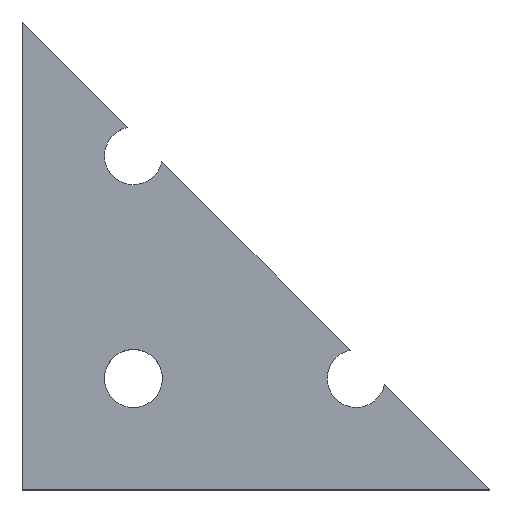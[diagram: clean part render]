
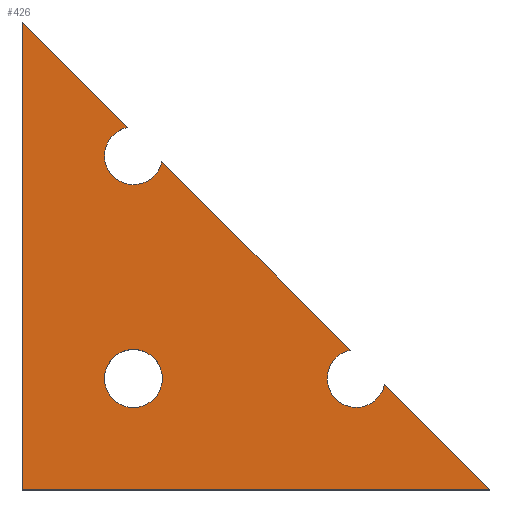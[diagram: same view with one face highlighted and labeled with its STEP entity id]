
A CAD part, top view. The second image highlights one B-rep face of the part: STEP entity #426.
In plain terms, the highlighted planar face has unit normal (0, 0, 1).
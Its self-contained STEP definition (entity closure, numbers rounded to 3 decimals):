
#24 = VERTEX_POINT('',#25);
#25 = CARTESIAN_POINT('',(0.,0.,5.));
#32 = PLANE('',#33);
#33 = AXIS2_PLACEMENT_3D('',#34,#35,#36);
#34 = CARTESIAN_POINT('',(0.,0.,0.));
#35 = DIRECTION('',(0.,1.,0.));
#36 = DIRECTION('',(1.,0.,0.));
#44 = PLANE('',#45);
#45 = AXIS2_PLACEMENT_3D('',#46,#47,#48);
#46 = CARTESIAN_POINT('',(0.,42.,0.));
#47 = DIRECTION('',(1.,0.,-0.));
#48 = DIRECTION('',(0.,-1.,0.));
#56 = EDGE_CURVE('',#24,#57,#59,.T.);
#57 = VERTEX_POINT('',#58);
#58 = CARTESIAN_POINT('',(42.,0.,5.));
#59 = SURFACE_CURVE('',#60,(#64,#71),.PCURVE_S1.);
#60 = LINE('',#61,#62);
#61 = CARTESIAN_POINT('',(0.,0.,5.));
#62 = VECTOR('',#63,1.);
#63 = DIRECTION('',(1.,0.,0.));
#64 = PCURVE('',#32,#65);
#65 = DEFINITIONAL_REPRESENTATION('',(#66),#70);
#66 = LINE('',#67,#68);
#67 = CARTESIAN_POINT('',(0.,-5.));
#68 = VECTOR('',#69,1.);
#69 = DIRECTION('',(1.,0.));
#70 = ( GEOMETRIC_REPRESENTATION_CONTEXT(2) 
PARAMETRIC_REPRESENTATION_CONTEXT() REPRESENTATION_CONTEXT('2D SPACE',''
  ) );
#71 = PCURVE('',#72,#77);
#72 = PLANE('',#73);
#73 = AXIS2_PLACEMENT_3D('',#74,#75,#76);
#74 = CARTESIAN_POINT('',(14.849,14.849,5.));
#75 = DIRECTION('',(0.,0.,1.));
#76 = DIRECTION('',(1.,0.,0.));
#77 = DEFINITIONAL_REPRESENTATION('',(#78),#82);
#78 = LINE('',#79,#80);
#79 = CARTESIAN_POINT('',(-14.849,-14.849));
#80 = VECTOR('',#81,1.);
#81 = DIRECTION('',(1.,0.));
#82 = ( GEOMETRIC_REPRESENTATION_CONTEXT(2) 
PARAMETRIC_REPRESENTATION_CONTEXT() REPRESENTATION_CONTEXT('2D SPACE',''
  ) );
#100 = PLANE('',#101);
#101 = AXIS2_PLACEMENT_3D('',#102,#103,#104);
#102 = CARTESIAN_POINT('',(42.,0.,0.));
#103 = DIRECTION('',(-0.707,-0.707,0.));
#104 = DIRECTION('',(-0.707,0.707,0.));
#144 = VERTEX_POINT('',#145);
#145 = CARTESIAN_POINT('',(0.,42.,5.));
#159 = PLANE('',#160);
#160 = AXIS2_PLACEMENT_3D('',#161,#162,#163);
#161 = CARTESIAN_POINT('',(42.,0.,0.));
#162 = DIRECTION('',(-0.707,-0.707,0.));
#163 = DIRECTION('',(-0.707,0.707,0.));
#171 = EDGE_CURVE('',#144,#24,#172,.T.);
#172 = SURFACE_CURVE('',#173,(#177,#184),.PCURVE_S1.);
#173 = LINE('',#174,#175);
#174 = CARTESIAN_POINT('',(0.,42.,5.));
#175 = VECTOR('',#176,1.);
#176 = DIRECTION('',(0.,-1.,0.));
#177 = PCURVE('',#44,#178);
#178 = DEFINITIONAL_REPRESENTATION('',(#179),#183);
#179 = LINE('',#180,#181);
#180 = CARTESIAN_POINT('',(0.,-5.));
#181 = VECTOR('',#182,1.);
#182 = DIRECTION('',(1.,0.));
#183 = ( GEOMETRIC_REPRESENTATION_CONTEXT(2) 
PARAMETRIC_REPRESENTATION_CONTEXT() REPRESENTATION_CONTEXT('2D SPACE',''
  ) );
#184 = PCURVE('',#72,#185);
#185 = DEFINITIONAL_REPRESENTATION('',(#186),#190);
#186 = LINE('',#187,#188);
#187 = CARTESIAN_POINT('',(-14.849,27.151));
#188 = VECTOR('',#189,1.);
#189 = DIRECTION('',(0.,-1.));
#190 = ( GEOMETRIC_REPRESENTATION_CONTEXT(2) 
PARAMETRIC_REPRESENTATION_CONTEXT() REPRESENTATION_CONTEXT('2D SPACE',''
  ) );
#241 = EDGE_CURVE('',#57,#242,#244,.T.);
#242 = VERTEX_POINT('',#243);
#243 = CARTESIAN_POINT('',(32.543,9.457,5.));
#244 = SURFACE_CURVE('',#245,(#249,#256),.PCURVE_S1.);
#245 = LINE('',#246,#247);
#246 = CARTESIAN_POINT('',(42.,0.,5.));
#247 = VECTOR('',#248,1.);
#248 = DIRECTION('',(-0.707,0.707,0.));
#249 = PCURVE('',#100,#250);
#250 = DEFINITIONAL_REPRESENTATION('',(#251),#255);
#251 = LINE('',#252,#253);
#252 = CARTESIAN_POINT('',(0.,-5.));
#253 = VECTOR('',#254,1.);
#254 = DIRECTION('',(1.,0.));
#255 = ( GEOMETRIC_REPRESENTATION_CONTEXT(2) 
PARAMETRIC_REPRESENTATION_CONTEXT() REPRESENTATION_CONTEXT('2D SPACE',''
  ) );
#256 = PCURVE('',#72,#257);
#257 = DEFINITIONAL_REPRESENTATION('',(#258),#262);
#258 = LINE('',#259,#260);
#259 = CARTESIAN_POINT('',(27.151,-14.849));
#260 = VECTOR('',#261,1.);
#261 = DIRECTION('',(-0.707,0.707));
#262 = ( GEOMETRIC_REPRESENTATION_CONTEXT(2) 
PARAMETRIC_REPRESENTATION_CONTEXT() REPRESENTATION_CONTEXT('2D SPACE',''
  ) );
#277 = CYLINDRICAL_SURFACE('',#278,2.6);
#278 = AXIS2_PLACEMENT_3D('',#279,#280,#281);
#279 = CARTESIAN_POINT('',(30.,10.,-2.));
#280 = DIRECTION('',(0.,0.,1.));
#281 = DIRECTION('',(1.,0.,0.));
#357 = PLANE('',#358);
#358 = AXIS2_PLACEMENT_3D('',#359,#360,#361);
#359 = CARTESIAN_POINT('',(42.,0.,0.));
#360 = DIRECTION('',(-0.707,-0.707,0.));
#361 = DIRECTION('',(-0.707,0.707,0.));
#384 = CYLINDRICAL_SURFACE('',#385,2.6);
#385 = AXIS2_PLACEMENT_3D('',#386,#387,#388);
#386 = CARTESIAN_POINT('',(10.,30.,-2.));
#387 = DIRECTION('',(0.,0.,1.));
#388 = DIRECTION('',(1.,0.,0.));
#415 = CYLINDRICAL_SURFACE('',#416,2.6);
#416 = AXIS2_PLACEMENT_3D('',#417,#418,#419);
#417 = CARTESIAN_POINT('',(10.,10.,-2.));
#418 = DIRECTION('',(0.,0.,1.));
#419 = DIRECTION('',(1.,0.,0.));
#426 = ADVANCED_FACE('',(#427,#524),#72,.T.);
#427 = FACE_BOUND('',#428,.T.);
#428 = EDGE_LOOP('',(#429,#452,#453,#454,#455,#479,#502));
#429 = ORIENTED_EDGE('',*,*,#430,.T.);
#430 = EDGE_CURVE('',#431,#144,#433,.T.);
#431 = VERTEX_POINT('',#432);
#432 = CARTESIAN_POINT('',(9.457,32.543,5.));
#433 = SURFACE_CURVE('',#434,(#438,#445),.PCURVE_S1.);
#434 = LINE('',#435,#436);
#435 = CARTESIAN_POINT('',(42.,0.,5.));
#436 = VECTOR('',#437,1.);
#437 = DIRECTION('',(-0.707,0.707,0.));
#438 = PCURVE('',#72,#439);
#439 = DEFINITIONAL_REPRESENTATION('',(#440),#444);
#440 = LINE('',#441,#442);
#441 = CARTESIAN_POINT('',(27.151,-14.849));
#442 = VECTOR('',#443,1.);
#443 = DIRECTION('',(-0.707,0.707));
#444 = ( GEOMETRIC_REPRESENTATION_CONTEXT(2) 
PARAMETRIC_REPRESENTATION_CONTEXT() REPRESENTATION_CONTEXT('2D SPACE',''
  ) );
#445 = PCURVE('',#159,#446);
#446 = DEFINITIONAL_REPRESENTATION('',(#447),#451);
#447 = LINE('',#448,#449);
#448 = CARTESIAN_POINT('',(0.,-5.));
#449 = VECTOR('',#450,1.);
#450 = DIRECTION('',(1.,0.));
#451 = ( GEOMETRIC_REPRESENTATION_CONTEXT(2) 
PARAMETRIC_REPRESENTATION_CONTEXT() REPRESENTATION_CONTEXT('2D SPACE',''
  ) );
#452 = ORIENTED_EDGE('',*,*,#171,.T.);
#453 = ORIENTED_EDGE('',*,*,#56,.T.);
#454 = ORIENTED_EDGE('',*,*,#241,.T.);
#455 = ORIENTED_EDGE('',*,*,#456,.F.);
#456 = EDGE_CURVE('',#457,#242,#459,.T.);
#457 = VERTEX_POINT('',#458);
#458 = CARTESIAN_POINT('',(29.457,12.543,5.));
#459 = SURFACE_CURVE('',#460,(#465,#472),.PCURVE_S1.);
#460 = CIRCLE('',#461,2.6);
#461 = AXIS2_PLACEMENT_3D('',#462,#463,#464);
#462 = CARTESIAN_POINT('',(30.,10.,5.));
#463 = DIRECTION('',(0.,0.,1.));
#464 = DIRECTION('',(1.,0.,-0.));
#465 = PCURVE('',#72,#466);
#466 = DEFINITIONAL_REPRESENTATION('',(#467),#471);
#467 = CIRCLE('',#468,2.6);
#468 = AXIS2_PLACEMENT_2D('',#469,#470);
#469 = CARTESIAN_POINT('',(15.151,-4.849));
#470 = DIRECTION('',(1.,0.));
#471 = ( GEOMETRIC_REPRESENTATION_CONTEXT(2) 
PARAMETRIC_REPRESENTATION_CONTEXT() REPRESENTATION_CONTEXT('2D SPACE',''
  ) );
#472 = PCURVE('',#277,#473);
#473 = DEFINITIONAL_REPRESENTATION('',(#474),#478);
#474 = LINE('',#475,#476);
#475 = CARTESIAN_POINT('',(0.,7.));
#476 = VECTOR('',#477,1.);
#477 = DIRECTION('',(1.,0.));
#478 = ( GEOMETRIC_REPRESENTATION_CONTEXT(2) 
PARAMETRIC_REPRESENTATION_CONTEXT() REPRESENTATION_CONTEXT('2D SPACE',''
  ) );
#479 = ORIENTED_EDGE('',*,*,#480,.T.);
#480 = EDGE_CURVE('',#457,#481,#483,.T.);
#481 = VERTEX_POINT('',#482);
#482 = CARTESIAN_POINT('',(12.543,29.457,5.));
#483 = SURFACE_CURVE('',#484,(#488,#495),.PCURVE_S1.);
#484 = LINE('',#485,#486);
#485 = CARTESIAN_POINT('',(42.,0.,5.));
#486 = VECTOR('',#487,1.);
#487 = DIRECTION('',(-0.707,0.707,0.));
#488 = PCURVE('',#72,#489);
#489 = DEFINITIONAL_REPRESENTATION('',(#490),#494);
#490 = LINE('',#491,#492);
#491 = CARTESIAN_POINT('',(27.151,-14.849));
#492 = VECTOR('',#493,1.);
#493 = DIRECTION('',(-0.707,0.707));
#494 = ( GEOMETRIC_REPRESENTATION_CONTEXT(2) 
PARAMETRIC_REPRESENTATION_CONTEXT() REPRESENTATION_CONTEXT('2D SPACE',''
  ) );
#495 = PCURVE('',#357,#496);
#496 = DEFINITIONAL_REPRESENTATION('',(#497),#501);
#497 = LINE('',#498,#499);
#498 = CARTESIAN_POINT('',(0.,-5.));
#499 = VECTOR('',#500,1.);
#500 = DIRECTION('',(1.,0.));
#501 = ( GEOMETRIC_REPRESENTATION_CONTEXT(2) 
PARAMETRIC_REPRESENTATION_CONTEXT() REPRESENTATION_CONTEXT('2D SPACE',''
  ) );
#502 = ORIENTED_EDGE('',*,*,#503,.F.);
#503 = EDGE_CURVE('',#431,#481,#504,.T.);
#504 = SURFACE_CURVE('',#505,(#510,#517),.PCURVE_S1.);
#505 = CIRCLE('',#506,2.6);
#506 = AXIS2_PLACEMENT_3D('',#507,#508,#509);
#507 = CARTESIAN_POINT('',(10.,30.,5.));
#508 = DIRECTION('',(0.,0.,1.));
#509 = DIRECTION('',(1.,0.,-0.));
#510 = PCURVE('',#72,#511);
#511 = DEFINITIONAL_REPRESENTATION('',(#512),#516);
#512 = CIRCLE('',#513,2.6);
#513 = AXIS2_PLACEMENT_2D('',#514,#515);
#514 = CARTESIAN_POINT('',(-4.849,15.151));
#515 = DIRECTION('',(1.,0.));
#516 = ( GEOMETRIC_REPRESENTATION_CONTEXT(2) 
PARAMETRIC_REPRESENTATION_CONTEXT() REPRESENTATION_CONTEXT('2D SPACE',''
  ) );
#517 = PCURVE('',#384,#518);
#518 = DEFINITIONAL_REPRESENTATION('',(#519),#523);
#519 = LINE('',#520,#521);
#520 = CARTESIAN_POINT('',(0.,7.));
#521 = VECTOR('',#522,1.);
#522 = DIRECTION('',(1.,0.));
#523 = ( GEOMETRIC_REPRESENTATION_CONTEXT(2) 
PARAMETRIC_REPRESENTATION_CONTEXT() REPRESENTATION_CONTEXT('2D SPACE',''
  ) );
#524 = FACE_BOUND('',#525,.T.);
#525 = EDGE_LOOP('',(#526));
#526 = ORIENTED_EDGE('',*,*,#527,.F.);
#527 = EDGE_CURVE('',#528,#528,#530,.T.);
#528 = VERTEX_POINT('',#529);
#529 = CARTESIAN_POINT('',(12.6,10.,5.));
#530 = SURFACE_CURVE('',#531,(#536,#543),.PCURVE_S1.);
#531 = CIRCLE('',#532,2.6);
#532 = AXIS2_PLACEMENT_3D('',#533,#534,#535);
#533 = CARTESIAN_POINT('',(10.,10.,5.));
#534 = DIRECTION('',(0.,0.,1.));
#535 = DIRECTION('',(1.,0.,-0.));
#536 = PCURVE('',#72,#537);
#537 = DEFINITIONAL_REPRESENTATION('',(#538),#542);
#538 = CIRCLE('',#539,2.6);
#539 = AXIS2_PLACEMENT_2D('',#540,#541);
#540 = CARTESIAN_POINT('',(-4.849,-4.849));
#541 = DIRECTION('',(1.,0.));
#542 = ( GEOMETRIC_REPRESENTATION_CONTEXT(2) 
PARAMETRIC_REPRESENTATION_CONTEXT() REPRESENTATION_CONTEXT('2D SPACE',''
  ) );
#543 = PCURVE('',#415,#544);
#544 = DEFINITIONAL_REPRESENTATION('',(#545),#549);
#545 = LINE('',#546,#547);
#546 = CARTESIAN_POINT('',(0.,7.));
#547 = VECTOR('',#548,1.);
#548 = DIRECTION('',(1.,0.));
#549 = ( GEOMETRIC_REPRESENTATION_CONTEXT(2) 
PARAMETRIC_REPRESENTATION_CONTEXT() REPRESENTATION_CONTEXT('2D SPACE',''
  ) );
